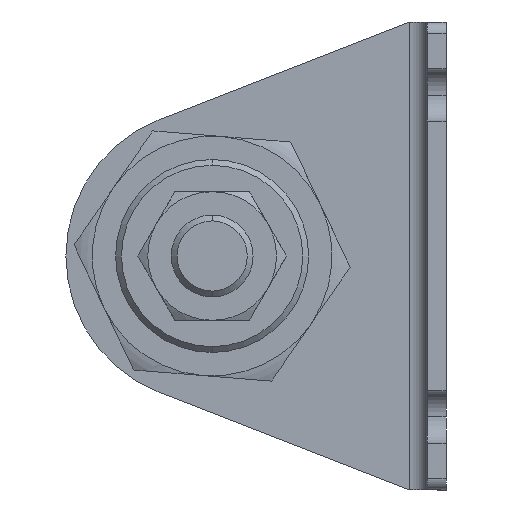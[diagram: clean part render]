
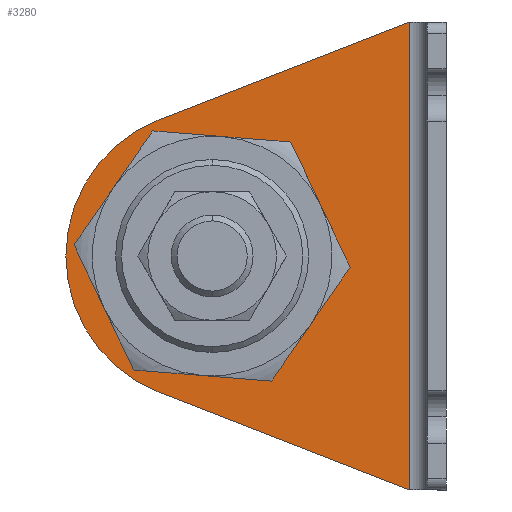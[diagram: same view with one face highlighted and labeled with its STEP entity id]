
A CAD part, left-side view. The second image highlights one B-rep face of the part: STEP entity #3280.
In plain terms, the highlighted planar face has unit normal (-1, 0, 0) as drawn and (1, 0, 0) by its records, which use the part's own axes.
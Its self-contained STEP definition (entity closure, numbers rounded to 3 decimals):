
#206 = EDGE_CURVE ( 'NONE', #1450, #3535, #412, .T. ) ;
#236 = DIRECTION ( 'NONE',  ( 1., 0., 0. ) ) ;
#267 = ORIENTED_EDGE ( 'NONE', *, *, #1685, .T. ) ;
#412 = CIRCLE ( 'NONE', #3761, 16.5 ) ;
#458 = CIRCLE ( 'NONE', #1313, 25. ) ;
#468 = DIRECTION ( 'NONE',  ( 0., 1., 0. ) ) ;
#506 = CARTESIAN_POINT ( 'NONE',  ( 3.2, 6.2, 0. ) ) ;
#549 = AXIS2_PLACEMENT_3D ( 'NONE', #3735, #2752, #468 ) ;
#578 = DIRECTION ( 'NONE',  ( 0., 1., 0. ) ) ;
#579 = DIRECTION ( 'NONE',  ( 1., 0., 0. ) ) ;
#634 = DIRECTION ( 'NONE',  ( 0., 0.932, -0.363 ) ) ;
#683 = CARTESIAN_POINT ( 'NONE',  ( 3.2, 40., -40. ) ) ;
#715 = CARTESIAN_POINT ( 'NONE',  ( 3.2, 3.2, -80. ) ) ;
#751 = DIRECTION ( 'NONE',  ( 0., 0., -1. ) ) ;
#765 = LINE ( 'NONE', #3943, #866 ) ;
#866 = VECTOR ( 'NONE', #634, 1000. ) ;
#895 = CARTESIAN_POINT ( 'NONE',  ( 3.2, 40., -40. ) ) ;
#971 = ORIENTED_EDGE ( 'NONE', *, *, #206, .F. ) ;
#1040 = DIRECTION ( 'NONE',  ( 0., 0.932, 0.363 ) ) ;
#1054 = EDGE_CURVE ( 'NONE', #2716, #4087, #458, .T. ) ;
#1109 = ORIENTED_EDGE ( 'NONE', *, *, #3708, .F. ) ;
#1154 = DIRECTION ( 'NONE',  ( 0., 1., 0. ) ) ;
#1162 = VERTEX_POINT ( 'NONE', #3210 ) ;
#1173 = VERTEX_POINT ( 'NONE', #506 ) ;
#1277 = CARTESIAN_POINT ( 'NONE',  ( 3.2, 40., -40. ) ) ;
#1313 = AXIS2_PLACEMENT_3D ( 'NONE', #1277, #579, #3885 ) ;
#1430 = EDGE_LOOP ( 'NONE', ( #2128, #971 ) ) ;
#1450 = VERTEX_POINT ( 'NONE', #3931 ) ;
#1470 = ORIENTED_EDGE ( 'NONE', *, *, #1054, .T. ) ;
#1518 = CIRCLE ( 'NONE', #1567, 16.5 ) ;
#1552 = EDGE_CURVE ( 'NONE', #1162, #2716, #3570, .T. ) ;
#1567 = AXIS2_PLACEMENT_3D ( 'NONE', #683, #2638, #2610 ) ;
#1676 = FACE_OUTER_BOUND ( 'NONE', #3279, .T. ) ;
#1685 = EDGE_CURVE ( 'NONE', #4087, #1700, #2209, .T. ) ;
#1700 = VERTEX_POINT ( 'NONE', #4075 ) ;
#1830 = CARTESIAN_POINT ( 'NONE',  ( 3.2, 65., -40. ) ) ;
#1988 = CARTESIAN_POINT ( 'NONE',  ( 3.2, 3.595, -81.015 ) ) ;
#2128 = ORIENTED_EDGE ( 'NONE', *, *, #4203, .F. ) ;
#2196 = EDGE_CURVE ( 'NONE', #1173, #1162, #3364, .T. ) ;
#2209 = CIRCLE ( 'NONE', #549, 25. ) ;
#2438 = CARTESIAN_POINT ( 'NONE',  ( 3.2, 49.076, -63.294 ) ) ;
#2467 = VECTOR ( 'NONE', #751, 1000. ) ;
#2610 = DIRECTION ( 'NONE',  ( 0., 1., 0. ) ) ;
#2638 = DIRECTION ( 'NONE',  ( 1., 0., 0. ) ) ;
#2691 = PLANE ( 'NONE',  #3284 ) ;
#2716 = VERTEX_POINT ( 'NONE', #2438 ) ;
#2752 = DIRECTION ( 'NONE',  ( 1., 0., 0. ) ) ;
#2798 = VECTOR ( 'NONE', #1040, 1000. ) ;
#2851 = CARTESIAN_POINT ( 'NONE',  ( 3.2, 56.5, -40. ) ) ;
#3021 = ORIENTED_EDGE ( 'NONE', *, *, #1552, .T. ) ;
#3210 = CARTESIAN_POINT ( 'NONE',  ( 3.2, 6.2, -80. ) ) ;
#3279 = EDGE_LOOP ( 'NONE', ( #3021, #1470, #267, #1109, #3941 ) ) ;
#3280 = ADVANCED_FACE ( 'NONE', ( #4175, #1676 ), #2691, .T. ) ;
#3284 = AXIS2_PLACEMENT_3D ( 'NONE', #715, #4073, #1154 ) ;
#3364 = LINE ( 'NONE', #3703, #2467 ) ;
#3535 = VERTEX_POINT ( 'NONE', #2851 ) ;
#3570 = LINE ( 'NONE', #1988, #2798 ) ;
#3703 = CARTESIAN_POINT ( 'NONE',  ( 3.2, 6.2, -80. ) ) ;
#3708 = EDGE_CURVE ( 'NONE', #1173, #1700, #765, .T. ) ;
#3735 = CARTESIAN_POINT ( 'NONE',  ( 3.2, 40., -40. ) ) ;
#3761 = AXIS2_PLACEMENT_3D ( 'NONE', #895, #236, #578 ) ;
#3885 = DIRECTION ( 'NONE',  ( 0., 1., 0. ) ) ;
#3931 = CARTESIAN_POINT ( 'NONE',  ( 3.2, 23.5, -40. ) ) ;
#3941 = ORIENTED_EDGE ( 'NONE', *, *, #2196, .T. ) ;
#3943 = CARTESIAN_POINT ( 'NONE',  ( 3.2, 30.657, -9.529 ) ) ;
#4073 = DIRECTION ( 'NONE',  ( 1., 0., 0. ) ) ;
#4075 = CARTESIAN_POINT ( 'NONE',  ( 3.2, 49.076, -16.706 ) ) ;
#4087 = VERTEX_POINT ( 'NONE', #1830 ) ;
#4175 = FACE_BOUND ( 'NONE', #1430, .T. ) ;
#4203 = EDGE_CURVE ( 'NONE', #3535, #1450, #1518, .T. ) ;
